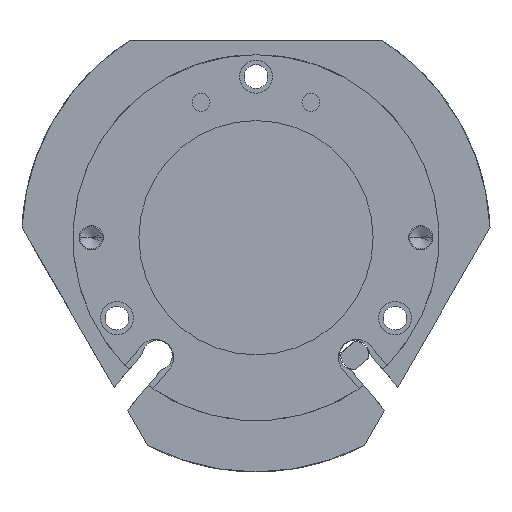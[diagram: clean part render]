
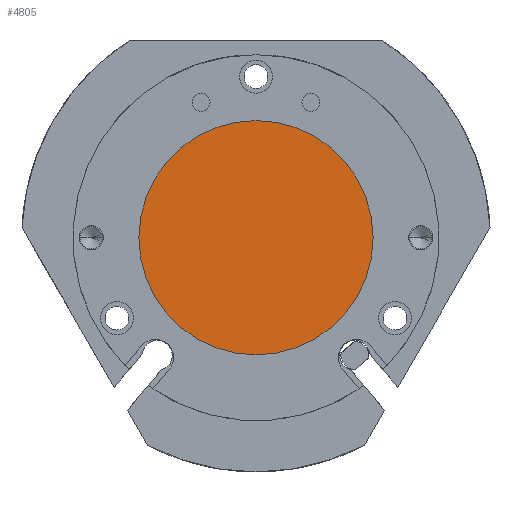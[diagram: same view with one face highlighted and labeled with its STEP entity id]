
A CAD part, front view. The second image highlights one B-rep face of the part: STEP entity #4805.
In plain terms, the highlighted planar face has unit normal (0, -1, 0) as drawn and (0, 1, 0) by its records, which use the part's own axes.
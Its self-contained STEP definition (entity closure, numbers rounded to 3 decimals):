
#662 = AXIS2_PLACEMENT_3D ( 'NONE', #4437, #7296, #3013 ) ;
#839 = CARTESIAN_POINT ( 'NONE',  ( 0., 3.5, 0. ) ) ;
#861 = PLANE ( 'NONE',  #662 ) ;
#1332 = EDGE_CURVE ( 'NONE', #5596, #3377, #1767, .T. ) ;
#1555 = DIRECTION ( 'NONE',  ( 0., 0., -1. ) ) ;
#1716 = EDGE_LOOP ( 'NONE', ( #5099, #4969 ) ) ;
#1767 = CIRCLE ( 'NONE', #1826, 16. ) ;
#1826 = AXIS2_PLACEMENT_3D ( 'NONE', #7735, #2718, #3442 ) ;
#2718 = DIRECTION ( 'NONE',  ( 0., 1., 0. ) ) ;
#3013 = DIRECTION ( 'NONE',  ( 0., 0., 1. ) ) ;
#3377 = VERTEX_POINT ( 'NONE', #3774 ) ;
#3442 = DIRECTION ( 'NONE',  ( 0., 0., -1. ) ) ;
#3619 = FACE_OUTER_BOUND ( 'NONE', #1716, .T. ) ;
#3774 = CARTESIAN_POINT ( 'NONE',  ( 0., 3.5, 16. ) ) ;
#4437 = CARTESIAN_POINT ( 'NONE',  ( 0., 3.5, 0. ) ) ;
#4805 = ADVANCED_FACE ( 'NONE', ( #3619 ), #861, .T. ) ;
#4969 = ORIENTED_EDGE ( 'NONE', *, *, #8021, .T. ) ;
#5099 = ORIENTED_EDGE ( 'NONE', *, *, #1332, .T. ) ;
#5596 = VERTEX_POINT ( 'NONE', #8788 ) ;
#5851 = DIRECTION ( 'NONE',  ( 0., 1., 0. ) ) ;
#5865 = AXIS2_PLACEMENT_3D ( 'NONE', #839, #5851, #1555 ) ;
#7296 = DIRECTION ( 'NONE',  ( 0., 1., 0. ) ) ;
#7735 = CARTESIAN_POINT ( 'NONE',  ( 0., 3.5, 0. ) ) ;
#7916 = CIRCLE ( 'NONE', #5865, 16. ) ;
#8021 = EDGE_CURVE ( 'NONE', #3377, #5596, #7916, .T. ) ;
#8788 = CARTESIAN_POINT ( 'NONE',  ( 0., 3.5, -16. ) ) ;
